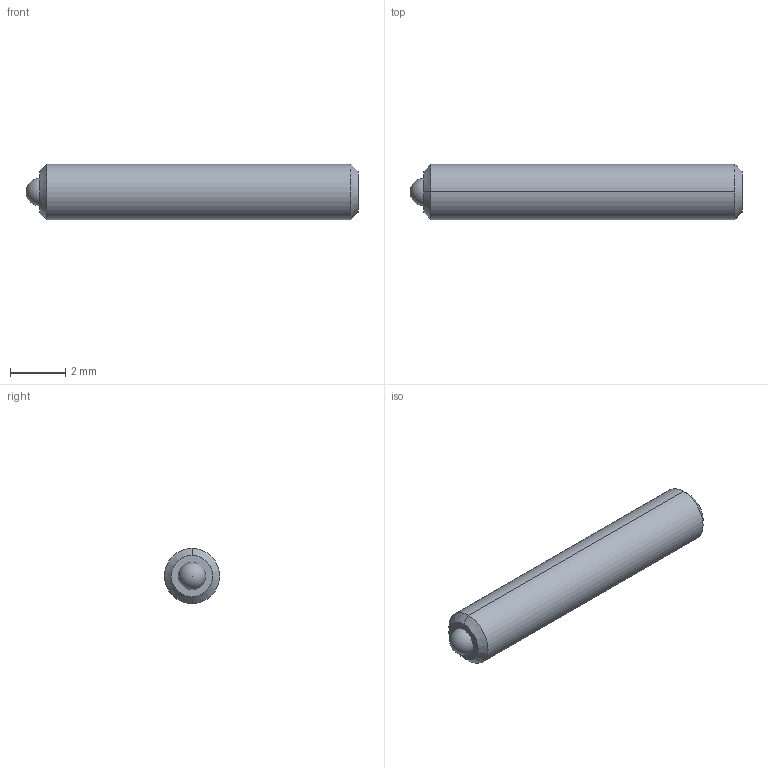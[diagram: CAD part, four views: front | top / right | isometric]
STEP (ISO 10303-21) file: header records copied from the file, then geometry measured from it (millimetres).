
FILE_DESCRIPTION (( 'STEP AP214' ), '1' );
FILE_NAME ('TS2-25-12.STEP', '2013-02-17T16:48:09', ( 'workpc' ), ( 'Microsoft' ), 'SwSTEP 2.0', 'SolidWorks 2013', '' );
FILE_SCHEMA (( 'AUTOMOTIVE_DESIGN' ));
Length unit declared in the file: millimetre
Products named in the file (1): TS2-25-12
Bounding box: 12 x 2 x 2 mm (x, y, z)
Volume: 34.5 mm3; surface area: 87.4 mm2
Topology: 2 solids, 2 shells, 20 faces, 45 edges, 29 vertices
Faces by surface type: plane 10, cylinder 4, cone 4, sphere 2
Entity records: 587 total; most frequent: DIRECTION 96, CARTESIAN_POINT 87, ORIENTED_EDGE 80, EDGE_CURVE 40, AXIS2_PLACEMENT_3D 35, LINE 26, VECTOR 26, VERTEX_POINT 26
